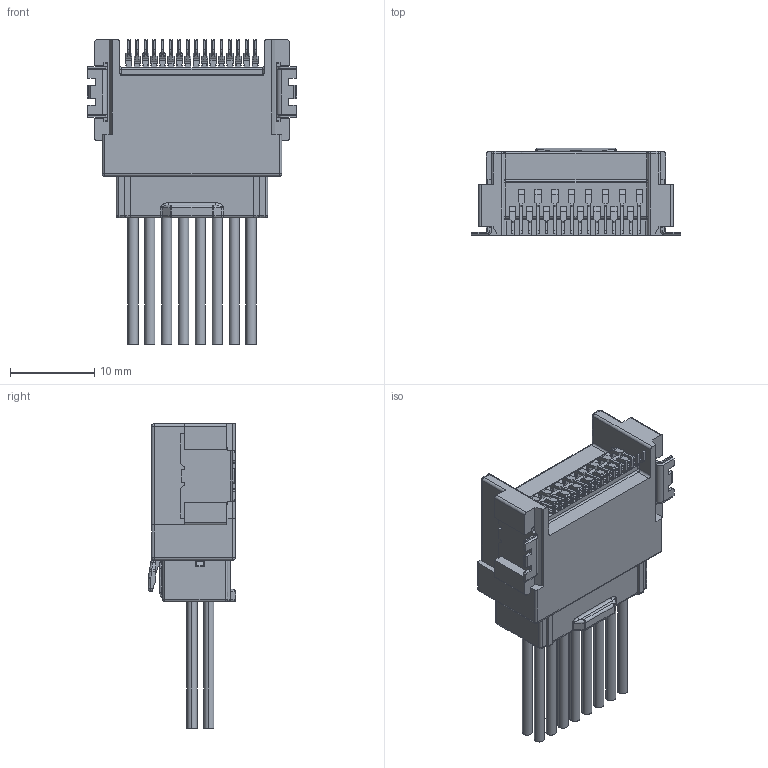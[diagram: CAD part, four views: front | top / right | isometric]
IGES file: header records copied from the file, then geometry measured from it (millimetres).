
Start section: SolidWorks IGES file using analytic representation for surfaces
Global section: file name: C:\Users\08803\Desktop\PDM\ISH全シリーズモデル(STEP)2017.2.6時点\水平\2列\16P\ISH\ISH 16P CONNECTOR.IGS; native system: SolidWorks 2017; preprocessor: SolidWorks 2017; author: 08803; date: 180821.135016; units: millimetre
Bounding box: 24.9 x 10.4 x 36.15 mm (x, y, z)
Surface area: 5320.2 mm2 (no closed solid volume)
Topology: 0 solids, 0 shells, 1902 faces, 12765 edges, 12732 vertices
Faces by surface type: bspline 1301, revolution 601
